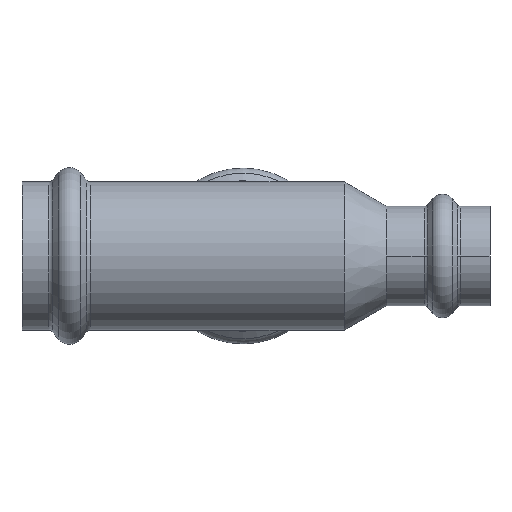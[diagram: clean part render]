
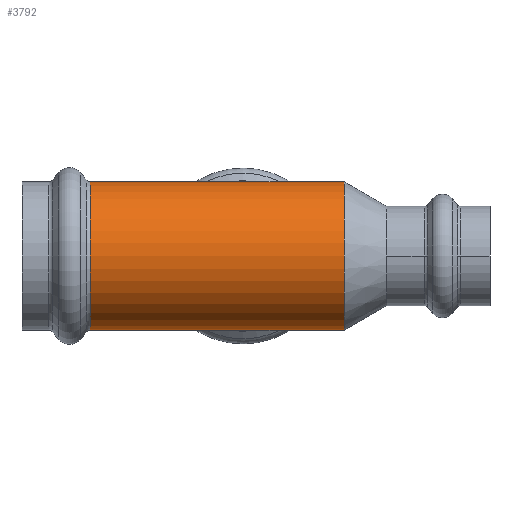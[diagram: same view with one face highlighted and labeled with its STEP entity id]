
A CAD part, front view. The second image highlights one B-rep face of the part: STEP entity #3792.
In plain terms, the highlighted cylindrical face has radius 15.6 mm (diameter 31.2 mm), a partial arc.
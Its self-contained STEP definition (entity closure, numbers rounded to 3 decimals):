
#158 = CARTESIAN_POINT ( 'NONE',  ( -32.106, 0., 0. ) ) ;
#235 = CARTESIAN_POINT ( 'NONE',  ( -58.611, 0., 15.6 ) ) ;
#440 = EDGE_CURVE ( 'NONE', #903, #2207, #2681, .T. ) ;
#548 = DIRECTION ( 'NONE',  ( 0., 0., 1. ) ) ;
#650 = DIRECTION ( 'NONE',  ( 0., 0., 1. ) ) ;
#903 = VERTEX_POINT ( 'NONE', #2125 ) ;
#967 = DIRECTION ( 'NONE',  ( -1., 0., 0. ) ) ;
#1061 = VECTOR ( 'NONE', #967, 1000. ) ;
#1098 = CARTESIAN_POINT ( 'NONE',  ( -32.106, 0., -15.6 ) ) ;
#1102 = DIRECTION ( 'NONE',  ( 1., 0., 0. ) ) ;
#1145 = ORIENTED_EDGE ( 'NONE', *, *, #3181, .F. ) ;
#1297 = VECTOR ( 'NONE', #4811, 1000. ) ;
#1755 = ORIENTED_EDGE ( 'NONE', *, *, #4499, .T. ) ;
#1843 = CARTESIAN_POINT ( 'NONE',  ( -32.106, 0., 15.6 ) ) ;
#1845 = EDGE_CURVE ( 'NONE', #903, #3538, #4658, .T. ) ;
#1964 = LINE ( 'NONE', #3643, #1061 ) ;
#2061 = AXIS2_PLACEMENT_3D ( 'NONE', #2947, #4478, #650 ) ;
#2104 = ORIENTED_EDGE ( 'NONE', *, *, #1845, .F. ) ;
#2125 = CARTESIAN_POINT ( 'NONE',  ( 21.325, 0., 15.6 ) ) ;
#2207 = VERTEX_POINT ( 'NONE', #1843 ) ;
#2239 = CIRCLE ( 'NONE', #4260, 15.6 ) ;
#2441 = CYLINDRICAL_SURFACE ( 'NONE', #2061, 15.6 ) ;
#2681 = LINE ( 'NONE', #235, #1297 ) ;
#2691 = VERTEX_POINT ( 'NONE', #1098 ) ;
#2799 = FACE_OUTER_BOUND ( 'NONE', #3226, .T. ) ;
#2838 = DIRECTION ( 'NONE',  ( 1., 0., 0. ) ) ;
#2947 = CARTESIAN_POINT ( 'NONE',  ( -58.611, 0., 0. ) ) ;
#3181 = EDGE_CURVE ( 'NONE', #3538, #2691, #1964, .T. ) ;
#3226 = EDGE_LOOP ( 'NONE', ( #1145, #2104, #4773, #1755 ) ) ;
#3391 = CARTESIAN_POINT ( 'NONE',  ( 21.325, 0., 0. ) ) ;
#3517 = CARTESIAN_POINT ( 'NONE',  ( 21.325, 0., -15.6 ) ) ;
#3538 = VERTEX_POINT ( 'NONE', #3517 ) ;
#3643 = CARTESIAN_POINT ( 'NONE',  ( -58.611, 0., -15.6 ) ) ;
#3731 = AXIS2_PLACEMENT_3D ( 'NONE', #3391, #1102, #3782 ) ;
#3782 = DIRECTION ( 'NONE',  ( 0., 0., 1. ) ) ;
#3792 = ADVANCED_FACE ( 'NONE', ( #2799 ), #2441, .T. ) ;
#4260 = AXIS2_PLACEMENT_3D ( 'NONE', #158, #2838, #548 ) ;
#4478 = DIRECTION ( 'NONE',  ( -1., 0., 0. ) ) ;
#4499 = EDGE_CURVE ( 'NONE', #2207, #2691, #2239, .T. ) ;
#4658 = CIRCLE ( 'NONE', #3731, 15.6 ) ;
#4773 = ORIENTED_EDGE ( 'NONE', *, *, #440, .T. ) ;
#4811 = DIRECTION ( 'NONE',  ( -1., 0., 0. ) ) ;
